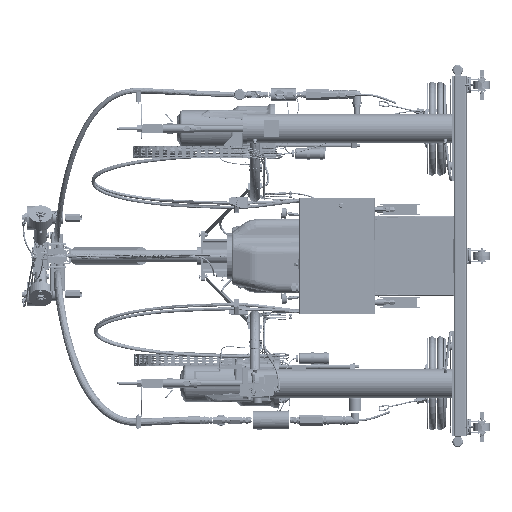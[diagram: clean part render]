
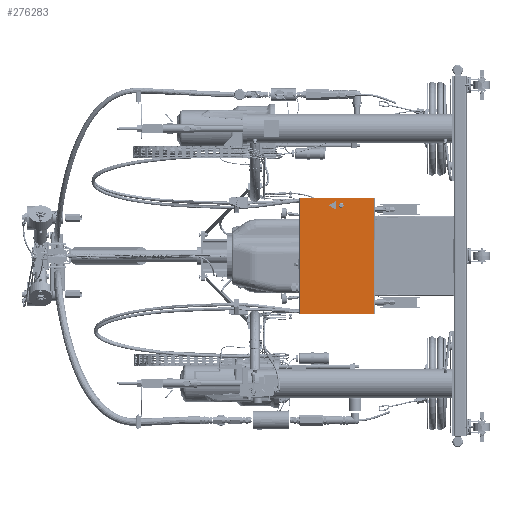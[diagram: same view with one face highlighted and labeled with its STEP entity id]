
A CAD part, left-side view. The second image highlights one B-rep face of the part: STEP entity #276283.
In plain terms, the highlighted planar face has unit normal (-1, 0, 0).
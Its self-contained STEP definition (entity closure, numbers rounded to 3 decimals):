
#275838=DIRECTION('',(0.,0.,-1.));
#275839=VECTOR('',#275838,27.851);
#275840=CARTESIAN_POINT('',(-6.95,20.57,13.925));
#275841=LINE('',#275840,#275839);
#275863=DIRECTION('',(0.,0.,-1.));
#275864=VECTOR('',#275863,27.851);
#275865=CARTESIAN_POINT('',(-6.95,38.421,13.925));
#275866=LINE('',#275865,#275864);
#275933=DIRECTION('',(0.,1.,0.));
#275934=VECTOR('',#275933,17.851);
#275935=CARTESIAN_POINT('',(-6.95,20.57,13.925));
#275936=LINE('',#275935,#275934);
#276003=DIRECTION('',(0.,-1.,0.));
#276004=VECTOR('',#276003,17.851);
#276005=CARTESIAN_POINT('',(-6.95,38.421,-13.925));
#276006=LINE('',#276005,#276004);
#276156=CARTESIAN_POINT('',(-6.95,38.421,13.925));
#276157=VERTEX_POINT('',#276156);
#276158=CARTESIAN_POINT('',(-6.95,38.421,-13.925));
#276159=VERTEX_POINT('',#276158);
#276176=CARTESIAN_POINT('',(-6.95,20.57,-13.925));
#276177=CARTESIAN_POINT('',(-6.95,20.57,13.925));
#276178=VERTEX_POINT('',#276176);
#276179=VERTEX_POINT('',#276177);
#276268=CARTESIAN_POINT('',(-6.95,38.421,13.925));
#276269=DIRECTION('',(-1.,0.,0.));
#276270=DIRECTION('',(0.,0.,-1.));
#276271=AXIS2_PLACEMENT_3D('',#276268,#276269,#276270);
#276272=PLANE('',#276271);
#276274=ORIENTED_EDGE('',*,*,#276273,.T.);
#276276=ORIENTED_EDGE('',*,*,#276275,.F.);
#276278=ORIENTED_EDGE('',*,*,#276277,.F.);
#276280=ORIENTED_EDGE('',*,*,#276279,.F.);
#276281=EDGE_LOOP('',(#276274,#276276,#276278,#276280));
#276282=FACE_OUTER_BOUND('',#276281,.F.);
#276283=ADVANCED_FACE('',(#276282),#276272,.T.);
#276273=EDGE_CURVE('',#276179,#276178,#275841,.T.);
#276275=EDGE_CURVE('',#276159,#276178,#276006,.T.);
#276277=EDGE_CURVE('',#276157,#276159,#275866,.T.);
#276279=EDGE_CURVE('',#276179,#276157,#275936,.T.);
